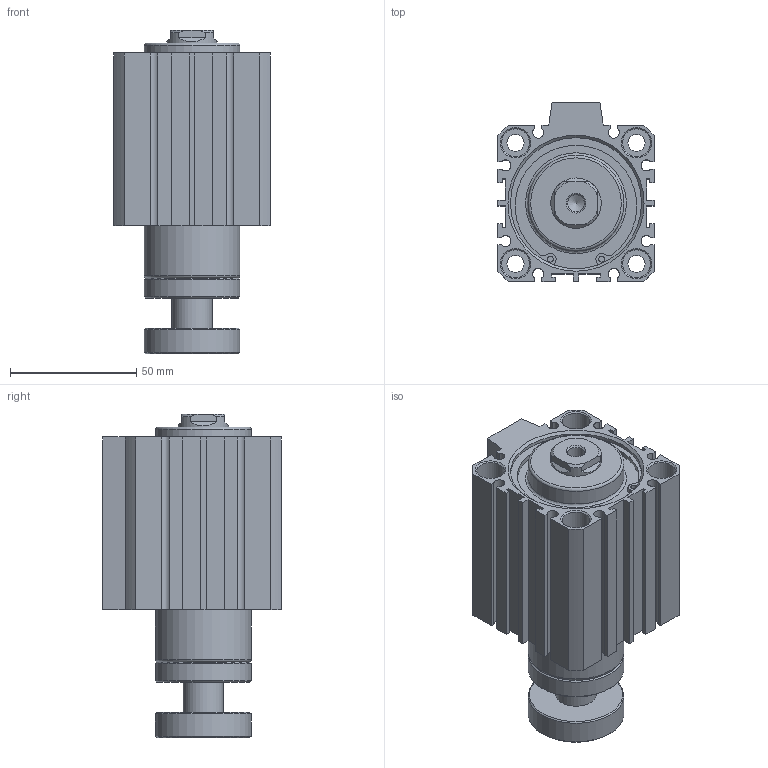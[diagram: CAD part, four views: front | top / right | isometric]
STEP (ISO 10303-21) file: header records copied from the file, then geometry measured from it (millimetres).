
FILE_DESCRIPTION((''),'2;1');
FILE_NAME('I:\3D電子目錄\氣缸\JDAR\JDAR\JDAR50\JDAR50x40.stp','2007-03-14T10:58:04',('662F206'),(''),'Autodesk Inventor 11','Autodesk Inventor 11','');
FILE_SCHEMA(('AUTOMOTIVE_DESIGN { 1 0 10303 214 1 1 1 1 }'));
Length unit declared in the file: millimetre
Products named in the file (3): JDAR50; R 形環 52
Assembly tree (3 placements, depth 2):
  JDAR50
    JDAR50
    R 形環 52  x2
Bounding box: 62 x 71 x 128.3 mm (x, y, z)
Volume: 281509.9 mm3; surface area: 56298.3 mm2
Topology: 3 solids, 3 shells, 193 faces, 472 edges, 309 vertices
Faces by surface type: plane 110, cylinder 54, cone 23, bspline 4, torus 2
Full cylindrical faces by diameter (mm): 2.3 x4, 2.7 x2, 6.8 x4, 11 x8, 16 x1, 20 x1, 38 x4, 52 x4, 55 x2
Entity records: 5195 total; most frequent: CARTESIAN_POINT 989, DIRECTION 870, ORIENTED_EDGE 764, EDGE_CURVE 382, AXIS2_PLACEMENT_3D 313, VERTEX_POINT 282, EDGE_LOOP 270, VECTOR 244
